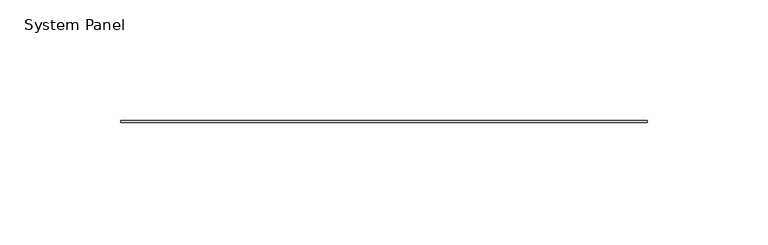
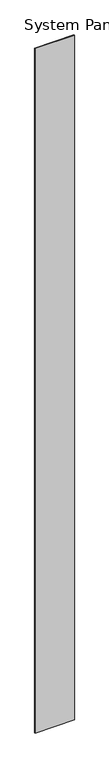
"""IFC4 building model written with IfcOpenShell, lengths in millimetres: plate geometry, System Panel : Stratco_Hiland_Tray."""

from ifc_helpers import new_model, si_unit, origin, origin_with_axes, place, context, project, spatial, polyline, outline, extrude, source, transform, mapped, element, save


def system_panel_5df52a28(model_context):
    return source(origin(), model_context, "Body", "SweptSolid", [
        extrude(outline(polyline([(109.2691801, 2.5), (-109.2691801, 2.5), (-109.2691801, 3.5), (109.2691801, 3.5), (109.2691801, 2.5)])), origin_with_axes(), (0.0, 0.0, 1.0), 4000.0),
    ])


if __name__ == "__main__":
    model = new_model("IFC4")
    model_context = context("Model", 3, world=origin())
    ifc_project = project(units=[si_unit("LENGTHUNIT", "METRE", prefix="MILLI")], contexts=[model_context])
    site = spatial("IfcSite", under=ifc_project)
    building = spatial("IfcBuilding", under=site)
    placement = place(None, origin())
    system_panel_shape = system_panel_5df52a28(model_context)
    element("IfcPlate", 1, ObjectType="System Panel : Stratco_Hiland_Tray", at=placement, inside=building, context=model_context, shape_type="MappedRepresentation", body=[
        mapped(system_panel_shape, transform((0.0, 0.0, 0.0), x_axis=(1.0, 0.0, 0.0), y_axis=(0.0, 1.0, 0.0), z_axis=(0.0, 0.0, 1.0))),
    ])
    save(model, "model.ifc")
